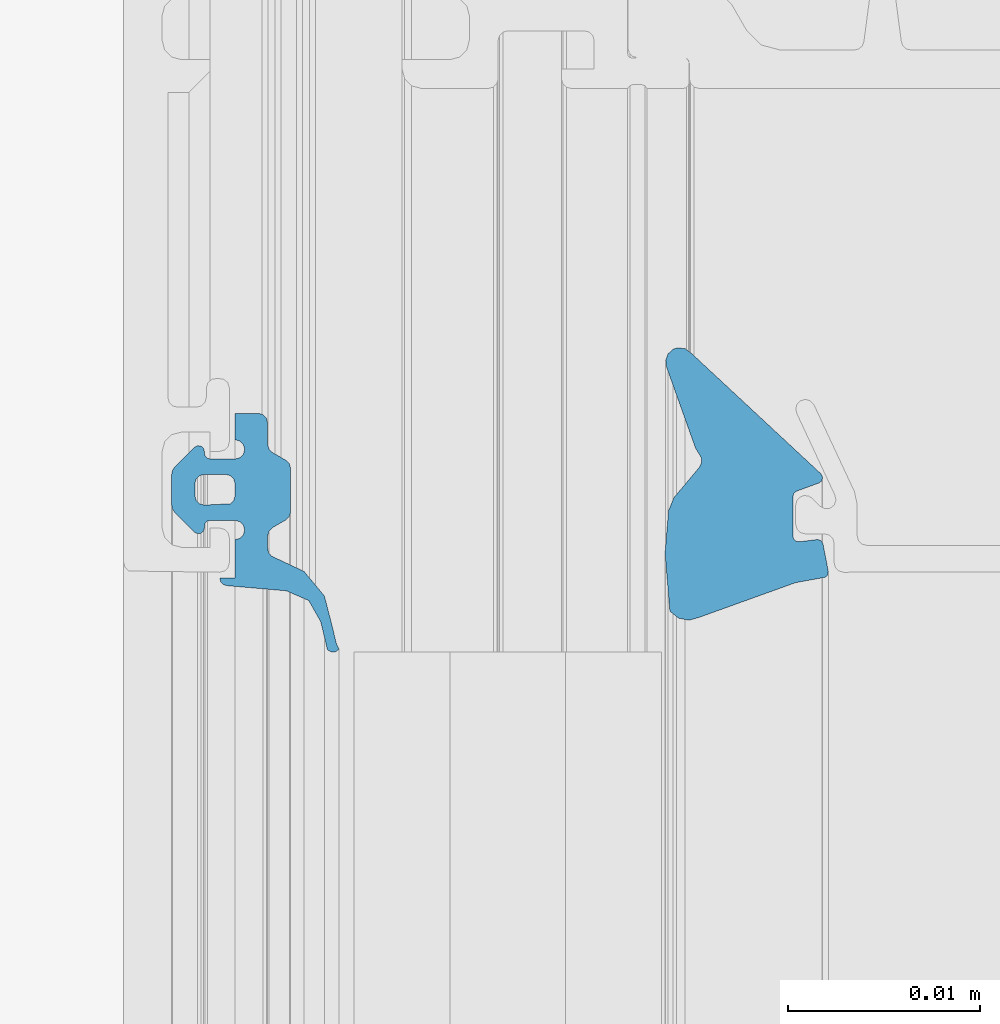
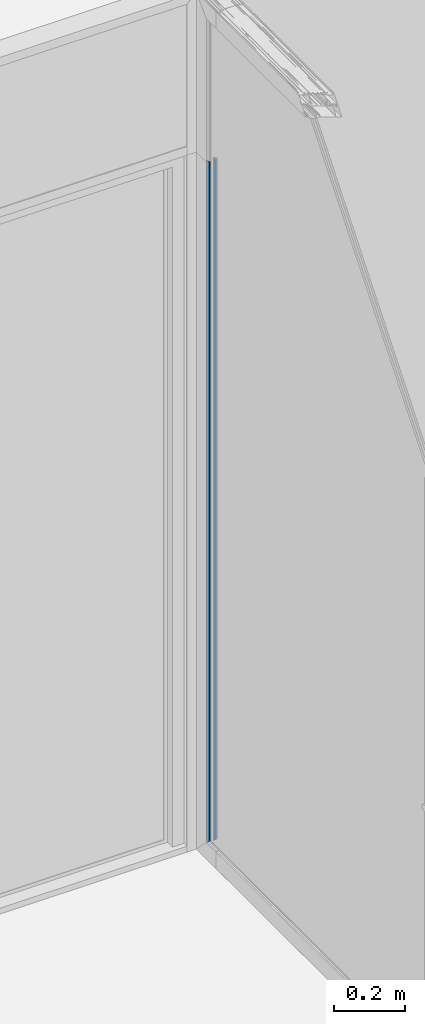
# One storey, part 21 of 62: 1 building element part, 2 elements without a shape of their own.
"""IFC2X3 building model written with IfcOpenShell, lengths in millimetres."""

from ifc_helpers import new_model, entity, si_unit, converted_unit, derived_unit, money_unit, direction, frame, origin_with_axes, place, context, subcontext, project, spatial, faceted_brep, source, transform, mapped, material, type_object, element, aggregate, save


model = new_model("IFC2X3")

# Units and contexts
model_context = context("Model", 3, precision=0.01, world=origin_with_axes(), true_north=direction((0.0, 1.0)))
body_context = subcontext(model_context, "Body", "Model", "MODEL_VIEW")
ifc_project = project(units=[si_unit("LENGTHUNIT", "METRE", prefix="MILLI"), si_unit("AREAUNIT", "SQUARE_METRE"), si_unit("VOLUMEUNIT", "CUBIC_METRE"), converted_unit("PLANEANGLEUNIT", "DEGREE", entity("IfcPlaneAngleMeasure", 0.0174532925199), si_unit("PLANEANGLEUNIT", "RADIAN"), dimensions=[0, 0, 0, 0, 0, 0, 0]), si_unit("SOLIDANGLEUNIT", "STERADIAN"), money_unit("EUR"), converted_unit("TIMEUNIT", "Year", entity("IfcTimeMeasure", 31556926.0), si_unit("TIMEUNIT", "SECOND"), dimensions=[0, 0, 1, 0, 0, 0, 0]), si_unit("MASSUNIT", "GRAM", prefix="KILO"), si_unit("THERMODYNAMICTEMPERATUREUNIT", "DEGREE_CELSIUS"), si_unit("LUMINOUSINTENSITYUNIT", "LUMEN"), si_unit("ENERGYUNIT", "JOULE", prefix="MEGA"), derived_unit("THERMALCONDUCTANCEUNIT", [(si_unit("POWERUNIT", "WATT"), 1), (si_unit("LENGTHUNIT", "METRE"), -1), (si_unit("THERMODYNAMICTEMPERATUREUNIT", "KELVIN"), -1)]), derived_unit("SPECIFICHEATCAPACITYUNIT", [(si_unit("ENERGYUNIT", "JOULE"), 1), (si_unit("MASSUNIT", "GRAM", prefix="KILO"), -1), (si_unit("THERMODYNAMICTEMPERATUREUNIT", "KELVIN"), -1)]), derived_unit("MASSDENSITYUNIT", [(si_unit("MASSUNIT", "GRAM", prefix="KILO"), 1), (si_unit("VOLUMEUNIT", "CUBIC_METRE"), -1)])], contexts=[model_context])

# Site, building, storey
site_placement = place(None, origin_with_axes())
site = spatial("IfcSite", under=ifc_project, at=site_placement, Name="Puškini 31, Narva", CompositionType="ELEMENT")
building_placement = place(site_placement, origin_with_axes())
building = spatial("IfcBuilding", under=site, at=building_placement, Name="Narva Riigigümnaasium", CompositionType="ELEMENT")
storey_placement = place(building_placement, frame((0.0, 0.0, 660.0), z_axis=(0.0, 0.0, 1.0), x_axis=(1.0, 0.0, 0.0)))
storey = spatial("IfcBuildingStorey", under=building, at=storey_placement, Name="2.korrus +0.66", CompositionType="ELEMENT", Elevation=660.0)

# Curtain wall, member, building element part
curtain_wall_type = type_object("IfcCurtainWallType", Name="Curtain Wall Type", PredefinedType="NOTDEFINED")
curtain_wall_placement = place(storey_placement, frame((47544.998162, 221675.502168, -2.45869393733e-05), z_axis=(0.0, 0.0, 1.0), x_axis=(1.0, 0.0, 0.0)))
curtain_wall = element("IfcCurtainWall", 1, at=curtain_wall_placement, inside=storey, type_object=curtain_wall_type, Name="G-SKLF-51")
member_type = type_object("IfcMemberType", Name="61 x 45", PredefinedType="MULLION")
member_placement = place(curtain_wall_placement, frame((-0.0091109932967, 2124.49797564, 2400.00002459), z_axis=(0.0, 0.0, -1.0), x_axis=(4.28853941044e-06, -0.999999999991, 0.0)))
member = element("IfcMember", 2, at=member_placement, type_object=member_type, Name="G-SKLF-72-raam", ObjectType="MULLION")
aggregate(curtain_wall, [member])
ifc_material = material(Name="Membraan - Veekindel")
shared_shape = source(origin_with_axes(), body_context, "Body", "Brep", [
    faceted_brep([(61.0413385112, 34.3890442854, -1.09406840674e-06), (59.5800222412, 34.73794757, -1.09406840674e-06), (59.5800222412, 34.73794757, 2340.41997776), (61.0413385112, 34.3890442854, 2338.95866149), (61.1536677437, 34.1934467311, -1.09406840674e-06), (61.1423164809, 33.9681748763, -1.09406840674e-06), (61.0108941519, 33.784859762, -1.09406840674e-06), (60.7381535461, 33.9217644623, -1.09406840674e-06), (59.8409257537, 34.1343131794, -1.09406840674e-06), (58.2346494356, 34.5489145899, -1.09406840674e-06), (56.9567944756, 35.6067920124, -1.09406840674e-06), (56.2495873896, 37.1074172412, -1.09406840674e-06), (56.1542959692, 37.3107917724, -1.09406840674e-06), (55.9795989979, 37.4519392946, -1.09406840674e-06), (55.7607444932, 37.5023809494, -1.09406840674e-06), (55.1093263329, 37.5023809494, -1.09406840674e-06), (54.8593263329, 37.4353936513, -1.09406840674e-06), (54.676313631, 37.2523809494, -1.09406840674e-06), (54.2721684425, 36.5523809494, -1.09406840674e-06), (54.0891557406, 36.3693682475, -1.09406840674e-06), (53.8391557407, 36.3023809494, -1.09406840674e-06), (51.602145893, 36.3023809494, -1.09406840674e-06), (51.352145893, 36.3693682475, -1.09406840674e-06), (51.1691331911, 36.5523809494, -1.09406840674e-06), (50.7649880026, 37.2523809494, -1.09406840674e-06), (50.5819753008, 37.4353936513, -1.09406840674e-06), (50.3319753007, 37.5023809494, -1.09406840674e-06), (49.2206527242, 37.5023809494, -1.09406840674e-06), (48.9706527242, 37.5693682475, -1.09406840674e-06), (48.7876400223, 37.7523809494, -1.09406840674e-06), (48.7206527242, 38.0023809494, -1.09406840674e-06), (48.7206527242, 39.1999494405, -1.09406840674e-06), (50.10004, 39.1999494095, -1.09406840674e-06), (50.1670287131, 38.9499497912, -1.09406840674e-06), (50.3500424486, 38.7669381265, -1.09406840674e-06), (50.6000428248, 38.699952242, -1.09406840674e-06), (50.8500424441, 38.7669409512, -1.09406840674e-06), (51.0330541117, 38.9499546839, -1.09406840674e-06), (51.10004, 39.1999550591, -1.09406840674e-06), (51.10004, 40.4999366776, -1.09406840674e-06), (51.0598476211, 40.6499366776, -1.09406840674e-06), (50.95004, 40.7597442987, -1.09406840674e-06), (50.80004, 40.7999366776, -1.09406840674e-06), (50.7000457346, 40.7999366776, -1.09406840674e-06), (50.5334025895, 40.8504763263, -1.09406840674e-06), (50.4229059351, 40.9850671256, -1.09406840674e-06), (50.4057850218, 41.1583618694, -1.09406840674e-06), (50.4878083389, 41.3119729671, -1.09406840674e-06), (51.5281601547, 42.3533311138, -1.09406840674e-06), (51.6904310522, 42.4618421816, -1.09406840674e-06), (51.8818844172, 42.4999486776, -1.09406840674e-06), (53.517932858, 42.4999486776, -1.09406840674e-06), (53.7093558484, 42.4618547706, -1.09406840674e-06), (53.8716106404, 42.3533776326, -1.09406840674e-06), (54.9122350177, 41.3120206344, -1.09406840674e-06), (54.9942836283, 41.1584047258, -1.09406840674e-06), (54.9771753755, 40.9850924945, -1.09406840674e-06), (54.866675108, 40.850483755, -1.09406840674e-06), (54.7000173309, 40.7999366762, -1.09406840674e-06), (54.6000210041, 40.7999366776, -1.09406840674e-06), (54.4500210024, 40.7597443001, -1.09406840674e-06), (54.3402133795, 40.6499366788, -1.09406840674e-06), (54.300021, 40.4999366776, -1.09406840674e-06), (54.300021, 39.1999606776, -1.09406840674e-06), (54.3670082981, 38.9499606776, -1.09406840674e-06), (54.5500210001, 38.7669479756, -1.09406840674e-06), (54.8000210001, 38.6999606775, -1.09406840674e-06), (55.0500210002, 38.7669479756, -1.09406840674e-06), (55.2330337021, 38.9499606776, -1.09406840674e-06), (55.3000210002, 39.1999606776, -1.09406840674e-06), (57.3000022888, 39.1999494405, -1.09406840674e-06), (57.3000022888, 39.9999846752, -1.09406840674e-06), (57.5000161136, 39.946391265, -1.09406840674e-06), (57.6464370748, 39.799971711, -1.09406840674e-06), (57.7000324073, 39.5999584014, -1.09406840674e-06), (57.9693613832, 36.5265882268, -1.09406840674e-06), (58.4755028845, 35.3628499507, -1.09406840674e-06), (53.5000340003, 40.7999553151, -1.09406840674e-06), (53.4330491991, 41.0499459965, -1.09406840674e-06), (53.2500433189, 41.2329518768, -1.09406840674e-06), (53.0000526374, 41.299936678, -1.09406840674e-06), (52.4000083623, 41.299936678, -1.09406840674e-06), (52.150017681, 41.2329518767, -1.09406840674e-06), (51.9670118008, 41.0499459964, -1.09406840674e-06), (51.9000269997, 40.799955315, -1.09406840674e-06), (51.9000269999, 39.6999268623, -1.09406840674e-06), (51.9670129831, 39.4499317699, -1.09406840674e-06), (52.1500220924, 39.2669226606, -1.09406840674e-06), (52.4000171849, 39.1999366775, -1.09406840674e-06), (53.0000438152, 39.1999366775, -1.09406840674e-06), (53.2500389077, 39.2669226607, -1.09406840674e-06), (53.433048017, 39.44993177, -1.09406840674e-06), (58.4755028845, 35.3628499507, 2341.52449712), (57.9693613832, 36.5265882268, 2342.03063862), (57.7000324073, 39.5999584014, 2342.29996759), (57.6464370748, 39.799971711, 2342.35356293), (57.5000161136, 39.946391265, 2342.49998389), (57.3000022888, 39.9999846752, 2342.69999771), (57.3000022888, 39.1999494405, 2342.69999771), (55.3000210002, 39.1999606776, 2344.699979), (55.2330337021, 38.9499606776, 2344.7669663), (55.0500210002, 38.7669479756, 2344.949979), (54.8000210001, 38.6999606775, 2345.199979), (54.5500210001, 38.7669479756, 2345.449979), (54.3670082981, 38.9499606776, 2345.6329917), (54.300021, 39.1999606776, 2345.699979), (54.300021, 40.4999366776, 2345.699979), (54.3402133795, 40.6499366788, 2345.65978662), (54.4500210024, 40.7597443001, 2345.549979), (54.6000210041, 40.7999366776, 2345.399979), (54.7000173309, 40.7999366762, 2345.29998267), (54.866675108, 40.850483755, 2345.13332489), (54.9771753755, 40.9850924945, 2345.02282462), (54.9942836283, 41.1584047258, 2345.00571637), (54.9122350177, 41.3120206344, 2345.08776498), (53.8716106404, 42.3533776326, 2346.12838936), (53.7093558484, 42.4618547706, 2346.29064415), (53.517932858, 42.4999486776, 2346.48206714), (51.8818844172, 42.4999486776, 2348.11811558), (51.6904310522, 42.4618421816, 2348.30956895), (51.5281601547, 42.3533311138, 2348.47183985), (50.4878083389, 41.3119729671, 2349.51219166), (50.4057850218, 41.1583618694, 2349.59421498), (50.4229059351, 40.9850671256, 2349.57709406), (50.5334025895, 40.8504763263, 2349.46659741), (50.7000457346, 40.7999366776, 2349.29995427), (50.80004, 40.7999366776, 2349.19996), (50.95004, 40.7597442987, 2349.04996), (51.0598476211, 40.6499366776, 2348.94015238), (51.10004, 40.4999366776, 2348.89996), (51.10004, 39.1999550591, 2348.89996), (51.0330541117, 38.9499546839, 2348.96694589), (50.8500424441, 38.7669409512, 2349.14995756), (50.6000428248, 38.699952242, 2349.39995718), (50.3500424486, 38.7669381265, 2349.64995755), (50.1670287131, 38.9499497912, 2349.83297129), (50.10004, 39.1999494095, 2349.89996), (48.7206527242, 39.1999494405, 2351.27934728), (48.7206527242, 38.0023809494, 2351.27934728), (48.7876400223, 37.7523809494, 2351.21235998), (48.9706527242, 37.5693682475, 2351.02934728), (49.2206527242, 37.5023809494, 2350.77934728), (50.3319753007, 37.5023809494, 2349.6680247), (50.5819753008, 37.4353936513, 2349.4180247), (50.7649880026, 37.2523809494, 2349.235012), (51.1691331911, 36.5523809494, 2348.83086681), (51.352145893, 36.3693682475, 2348.64785411), (51.602145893, 36.3023809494, 2348.39785411), (53.8391557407, 36.3023809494, 2346.16084426), (54.0891557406, 36.3693682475, 2345.91084426), (54.2721684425, 36.5523809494, 2345.72783156), (54.676313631, 37.2523809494, 2345.32368637), (54.8593263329, 37.4353936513, 2345.14067367), (55.1093263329, 37.5023809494, 2344.89067367), (55.7607444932, 37.5023809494, 2344.23925551), (55.9795989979, 37.4519392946, 2344.020401), (56.1542959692, 37.3107917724, 2343.84570403), (56.2495873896, 37.1074172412, 2343.75041261), (56.9567944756, 35.6067920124, 2343.04320552), (58.2346494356, 34.5489145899, 2341.76535056), (59.8409257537, 34.1343131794, 2340.15907425), (60.7381535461, 33.9217644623, 2339.26184645), (61.0108941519, 33.784859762, 2338.98910585), (61.1423164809, 33.9681748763, 2338.85768352), (61.1536677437, 34.1934467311, 2338.84633226), (53.5000340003, 40.7999553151, 2346.499966), (53.433048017, 39.44993177, 2346.56695198), (53.2500389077, 39.2669226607, 2346.74996109), (53.0000438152, 39.1999366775, 2346.99995618), (52.4000171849, 39.1999366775, 2347.59998282), (52.1500220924, 39.2669226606, 2347.84997791), (51.9670129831, 39.4499317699, 2348.03298702), (51.9000269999, 39.6999268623, 2348.099973), (51.9000269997, 40.799955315, 2348.099973), (51.9670118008, 41.0499459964, 2348.0329882), (52.150017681, 41.2329518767, 2347.84998232), (52.4000083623, 41.299936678, 2347.59999164), (53.0000526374, 41.299936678, 2346.99994736), (53.2500433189, 41.2329518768, 2346.74995668), (53.4330491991, 41.0499459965, 2346.5669508)], [[[0, 1, 2, 3]], [[0, 4, 5, 6, 7, 8, 9, 10, 11, 12, 13, 14, 15, 16, 17, 18, 19, 20, 21, 22, 23, 24, 25, 26, 27, 28, 29, 30, 31, 32, 33, 34, 35, 36, 37, 38, 39, 40, 41, 42, 43, 44, 45, 46, 47, 48, 49, 50, 51, 52, 53, 54, 55, 56, 57, 58, 59, 60, 61, 62, 63, 64, 65, 66, 67, 68, 69, 70, 71, 72, 73, 74, 75, 76, 1], [77, 78, 79, 80, 81, 82, 83, 84, 85, 86, 87, 88, 89, 90, 91]], [[1, 76, 92, 2]], [[3, 2, 92, 93, 94, 95, 96, 97, 98, 99, 100, 101, 102, 103, 104, 105, 106, 107, 108, 109, 110, 111, 112, 113, 114, 115, 116, 117, 118, 119, 120, 121, 122, 123, 124, 125, 126, 127, 128, 129, 130, 131, 132, 133, 134, 135, 136, 137, 138, 139, 140, 141, 142, 143, 144, 145, 146, 147, 148, 149, 150, 151, 152, 153, 154, 155, 156, 157, 158, 159, 160, 161, 162, 163, 164], [165, 166, 167, 168, 169, 170, 171, 172, 173, 174, 175, 176, 177, 178, 179]], [[4, 0, 3, 164]], [[5, 4, 164, 163]], [[6, 5, 163, 162]], [[7, 6, 162, 161]], [[8, 7, 161, 160]], [[9, 8, 160, 159]], [[10, 9, 159, 158]], [[11, 10, 158, 157]], [[12, 11, 157, 156]], [[13, 12, 156, 155]], [[14, 13, 155, 154]], [[15, 14, 154, 153]], [[16, 15, 153, 152]], [[17, 16, 152, 151]], [[18, 17, 151, 150]], [[19, 18, 150, 149]], [[20, 19, 149, 148]], [[21, 20, 148, 147]], [[22, 21, 147, 146]], [[23, 22, 146, 145]], [[24, 23, 145, 144]], [[25, 24, 144, 143]], [[26, 25, 143, 142]], [[27, 26, 142, 141]], [[28, 27, 141, 140]], [[29, 28, 140, 139]], [[30, 29, 139, 138]], [[31, 30, 138, 137]], [[32, 31, 137, 136]], [[33, 32, 136, 135]], [[34, 33, 135, 134]], [[35, 34, 134, 133]], [[36, 35, 133, 132]], [[37, 36, 132, 131]], [[38, 37, 131, 130]], [[39, 38, 130, 129]], [[40, 39, 129, 128]], [[41, 40, 128, 127]], [[42, 41, 127, 126]], [[43, 42, 126, 125]], [[44, 43, 125, 124]], [[45, 44, 124, 123]], [[46, 45, 123, 122]], [[47, 46, 122, 121]], [[48, 47, 121, 120]], [[49, 48, 120, 119]], [[50, 49, 119, 118]], [[51, 50, 118, 117]], [[52, 51, 117, 116]], [[53, 52, 116, 115]], [[54, 53, 115, 114]], [[55, 54, 114, 113]], [[56, 55, 113, 112]], [[57, 56, 112, 111]], [[58, 57, 111, 110]], [[59, 58, 110, 109]], [[60, 59, 109, 108]], [[61, 60, 108, 107]], [[62, 61, 107, 106]], [[63, 62, 106, 105]], [[64, 63, 105, 104]], [[65, 64, 104, 103]], [[66, 65, 103, 102]], [[67, 66, 102, 101]], [[68, 67, 101, 100]], [[69, 68, 100, 99]], [[70, 69, 99, 98]], [[71, 70, 98, 97]], [[72, 71, 97, 96]], [[73, 72, 96, 95]], [[74, 73, 95, 94]], [[75, 74, 94, 93]], [[76, 75, 93, 92]], [[78, 77, 165, 179]], [[79, 78, 179, 178]], [[80, 79, 178, 177]], [[81, 80, 177, 176]], [[82, 81, 176, 175]], [[83, 82, 175, 174]], [[84, 83, 174, 173]], [[85, 84, 173, 172]], [[86, 85, 172, 171]], [[87, 86, 171, 170]], [[88, 87, 170, 169]], [[89, 88, 169, 168]], [[90, 89, 168, 167]], [[91, 90, 167, 166]], [[77, 91, 166, 165]]]),
    faceted_brep([(59.0307115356, 16.554149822, -1.09406840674e-06), (55.9926715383, 16.8063498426, -1.09406840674e-06), (55.9926715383, 16.8063498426, 2344.00732846), (59.0307115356, 16.554149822, 2340.96928846), (59.3884652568, 16.1092618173, -1.09406840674e-06), (59.5001582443, 15.5494067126, -1.09406840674e-06), (59.3405112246, 15.0012955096, -1.09406840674e-06), (57.5418652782, 10.0035930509, -1.09406840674e-06), (57.2632233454, 8.46932121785, -1.09406840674e-06), (57.1824204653, 8.36745448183, -1.09406840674e-06), (57.0661058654, 8.3093438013, -1.09406840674e-06), (56.9361285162, 8.30590490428, -1.09406840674e-06), (55.5361285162, 8.57803733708, -1.09406840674e-06), (55.4168250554, 8.62997353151, -1.09406840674e-06), (55.3307332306, 8.72753828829, -1.09406840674e-06), (55.2940485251, 8.85237785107, -1.09406840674e-06), (55.4099827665, 9.81272116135, -1.09406840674e-06), (55.3838261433, 9.9780831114, -1.09406840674e-06), (55.2731258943, 10.1036784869, -1.09406840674e-06), (55.1123574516, 10.1503930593, -1.09406840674e-06), (53.0580290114, 10.1503930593, -1.09406840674e-06), (52.8859560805, 10.0961386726, -1.09406840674e-06), (52.7761212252, 9.95299910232, -1.09406840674e-06), (52.3556584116, 8.79778701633, -1.09406840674e-06), (52.2574645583, 8.66326410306, -1.09406840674e-06), (52.1026310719, 8.60190419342, -1.09406840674e-06), (51.938943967, 8.6326446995, -1.09406840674e-06), (51.8169217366, 8.74599822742, -1.09406840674e-06), (45.6142070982, 15.4144760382, -1.09406840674e-06), (45.3418968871, 15.7688623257, -1.09406840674e-06), (45.3195226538, 16.2152275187, -1.09406840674e-06), (45.3889077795, 16.3899097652, -1.09406840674e-06), (45.6241929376, 16.6482027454, -1.09406840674e-06), (45.950966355, 16.7718696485, -1.09406840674e-06), (46.298307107, 16.7340705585, -1.09406840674e-06), (50.5536994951, 15.2121179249, -1.09406840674e-06), (50.8437237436, 15.0307134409, -1.09406840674e-06), (51.0558924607, 14.9074036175, -1.09406840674e-06), (51.3011765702, 14.8998814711, -1.09406840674e-06), (51.5205025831, 15.0099586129, -1.09406840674e-06), (53.1225200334, 16.3483062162, -1.09406840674e-06), (53.7899070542, 16.6230039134, -1.09406840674e-06), (53.7899070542, 16.6230039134, 2346.21009295), (53.1225200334, 16.3483062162, 2346.87747997), (51.5205025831, 15.0099586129, 2348.47949742), (51.3011765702, 14.8998814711, 2348.69882343), (51.0558924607, 14.9074036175, 2348.94410754), (50.8437237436, 15.0307134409, 2349.15627626), (50.5536994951, 15.2121179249, 2349.4463005), (46.298307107, 16.7340705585, 2353.70169289), (45.950966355, 16.7718696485, 2354.04903365), (45.6241929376, 16.6482027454, 2354.37580706), (45.3889077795, 16.3899097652, 2354.61109222), (45.3195226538, 16.2152275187, 2354.68047735), (45.3418968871, 15.7688623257, 2354.65810311), (45.6142070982, 15.4144760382, 2354.3857929), (51.8169217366, 8.74599822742, 2348.18307826), (51.938943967, 8.6326446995, 2348.06105603), (52.1026310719, 8.60190419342, 2347.89736893), (52.2574645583, 8.66326410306, 2347.74253544), (52.3556584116, 8.79778701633, 2347.64434159), (52.7761212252, 9.95299910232, 2347.22387877), (52.8859560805, 10.0961386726, 2347.11404392), (53.0580290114, 10.1503930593, 2346.94197099), (55.1123574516, 10.1503930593, 2344.88764255), (55.2731258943, 10.1036784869, 2344.72687411), (55.3838261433, 9.9780831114, 2344.61617386), (55.4099827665, 9.81272116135, 2344.59001723), (55.2940485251, 8.85237785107, 2344.70595147), (55.3307332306, 8.72753828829, 2344.66926677), (55.4168250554, 8.62997353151, 2344.58317494), (55.5361285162, 8.57803733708, 2344.46387148), (56.9361285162, 8.30590490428, 2343.06387148), (57.0661058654, 8.3093438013, 2342.93389413), (57.1824204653, 8.36745448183, 2342.81757953), (57.2632233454, 8.46932121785, 2342.73677665), (57.5418652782, 10.0035930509, 2342.45813472), (59.3405112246, 15.0012955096, 2340.65948878), (59.5001582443, 15.5494067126, 2340.49984176), (59.3884652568, 16.1092618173, 2340.61153474)], [[[0, 1, 2, 3]], [[0, 4, 5, 6, 7, 8, 9, 10, 11, 12, 13, 14, 15, 16, 17, 18, 19, 20, 21, 22, 23, 24, 25, 26, 27, 28, 29, 30, 31, 32, 33, 34, 35, 36, 37, 38, 39, 40, 41, 1]], [[1, 41, 42, 2]], [[3, 2, 42, 43, 44, 45, 46, 47, 48, 49, 50, 51, 52, 53, 54, 55, 56, 57, 58, 59, 60, 61, 62, 63, 64, 65, 66, 67, 68, 69, 70, 71, 72, 73, 74, 75, 76, 77, 78, 79]], [[4, 0, 3, 79]], [[5, 4, 79, 78]], [[6, 5, 78, 77]], [[7, 6, 77, 76]], [[8, 7, 76, 75]], [[9, 8, 75, 74]], [[10, 9, 74, 73]], [[11, 10, 73, 72]], [[12, 11, 72, 71]], [[13, 12, 71, 70]], [[14, 13, 70, 69]], [[15, 14, 69, 68]], [[16, 15, 68, 67]], [[17, 16, 67, 66]], [[18, 17, 66, 65]], [[19, 18, 65, 64]], [[20, 19, 64, 63]], [[21, 20, 63, 62]], [[22, 21, 62, 61]], [[23, 22, 61, 60]], [[24, 23, 60, 59]], [[25, 24, 59, 58]], [[26, 25, 58, 57]], [[27, 26, 57, 56]], [[28, 27, 56, 55]], [[29, 28, 55, 54]], [[30, 29, 54, 53]], [[31, 30, 53, 52]], [[32, 31, 52, 51]], [[33, 32, 51, 50]], [[34, 33, 50, 49]], [[35, 34, 49, 48]], [[36, 35, 48, 47]], [[37, 36, 47, 46]], [[38, 37, 46, 45]], [[39, 38, 45, 44]], [[40, 39, 44, 43]], [[41, 40, 43, 42]]]),
])
building_element_part_placement = place(member_placement, origin_with_axes())
building_element_part = element("IfcBuildingElementPart", 3, at=building_element_part_placement, material=ifc_material, Name="Membraan - Veekindel", context=body_context, shape_type="MappedRepresentation", body=[
    mapped(shared_shape, transform((0.0, 0.0, 0.0))),
])
aggregate(member, [building_element_part])

save(model, "model.ifc")
